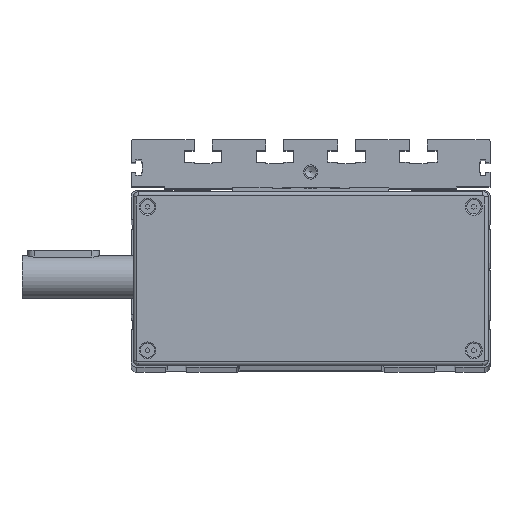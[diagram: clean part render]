
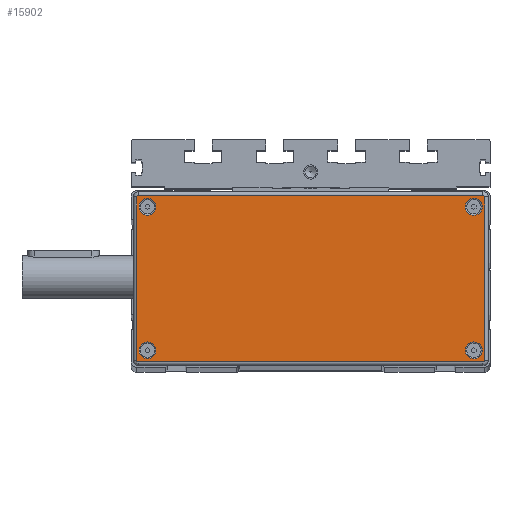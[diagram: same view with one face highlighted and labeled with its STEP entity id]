
A CAD part, top view. The second image highlights one B-rep face of the part: STEP entity #15902.
In plain terms, the highlighted planar face has unit normal (0, 0, 1) as drawn and (-1, 0, 0) by its records, which use the part's own axes.
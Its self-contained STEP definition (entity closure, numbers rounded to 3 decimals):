
#108=PLANE('',#16638);
#651=LINE('',#21023,#1851);
#652=LINE('',#21028,#1852);
#653=LINE('',#21032,#1853);
#654=LINE('',#21036,#1854);
#1851=VECTOR('',#17741,1000.);
#1852=VECTOR('',#17744,1000.);
#1853=VECTOR('',#17747,1000.);
#1854=VECTOR('',#17750,1000.);
#3091=ORIENTED_EDGE('',*,*,#6131,.T.);
#3092=ORIENTED_EDGE('',*,*,#6132,.T.);
#3093=ORIENTED_EDGE('',*,*,#6133,.T.);
#3094=ORIENTED_EDGE('',*,*,#6134,.T.);
#3095=ORIENTED_EDGE('',*,*,#6135,.T.);
#3096=ORIENTED_EDGE('',*,*,#6136,.T.);
#3097=ORIENTED_EDGE('',*,*,#6137,.T.);
#3098=ORIENTED_EDGE('',*,*,#6138,.T.);
#3099=ORIENTED_EDGE('',*,*,#6139,.T.);
#3100=ORIENTED_EDGE('',*,*,#6140,.T.);
#3101=ORIENTED_EDGE('',*,*,#6141,.T.);
#3102=ORIENTED_EDGE('',*,*,#6142,.T.);
#6131=EDGE_CURVE('',#7651,#7652,#651,.F.);
#6132=EDGE_CURVE('',#7652,#7653,#8708,.F.);
#6133=EDGE_CURVE('',#7653,#7654,#652,.F.);
#6134=EDGE_CURVE('',#7654,#7655,#8709,.F.);
#6135=EDGE_CURVE('',#7655,#7656,#653,.F.);
#6136=EDGE_CURVE('',#7656,#7657,#8710,.F.);
#6137=EDGE_CURVE('',#7657,#7658,#654,.F.);
#6138=EDGE_CURVE('',#7658,#7651,#8711,.F.);
#6139=EDGE_CURVE('',#7659,#7659,#8712,.T.);
#6140=EDGE_CURVE('',#7660,#7660,#8713,.T.);
#6141=EDGE_CURVE('',#7661,#7661,#8714,.T.);
#6142=EDGE_CURVE('',#7662,#7662,#8715,.T.);
#7651=VERTEX_POINT('',#21024);
#7652=VERTEX_POINT('',#21025);
#7653=VERTEX_POINT('',#21027);
#7654=VERTEX_POINT('',#21029);
#7655=VERTEX_POINT('',#21031);
#7656=VERTEX_POINT('',#21033);
#7657=VERTEX_POINT('',#21035);
#7658=VERTEX_POINT('',#21037);
#7659=VERTEX_POINT('',#21040);
#7660=VERTEX_POINT('',#21042);
#7661=VERTEX_POINT('',#21044);
#7662=VERTEX_POINT('',#21046);
#8708=CIRCLE('',#16639,1.);
#8709=CIRCLE('',#16640,1.);
#8710=CIRCLE('',#16641,1.);
#8711=CIRCLE('',#16642,1.);
#8712=CIRCLE('',#16643,4.7);
#8713=CIRCLE('',#16644,4.7);
#8714=CIRCLE('',#16645,4.7);
#8715=CIRCLE('',#16646,4.7);
#9040=EDGE_LOOP('',(#3091,#3092,#3093,#3094,#3095,#3096,#3097,#3098));
#9041=EDGE_LOOP('',(#3099));
#9042=EDGE_LOOP('',(#3100));
#9043=EDGE_LOOP('',(#3101));
#9044=EDGE_LOOP('',(#3102));
#9986=FACE_BOUND('',#9040,.T.);
#9987=FACE_BOUND('',#9041,.T.);
#9988=FACE_BOUND('',#9042,.T.);
#9989=FACE_BOUND('',#9043,.T.);
#9990=FACE_BOUND('',#9044,.T.);
#15902=ADVANCED_FACE('',(#9986,#9987,#9988,#9989,#9990),#108,.F.);
#16638=AXIS2_PLACEMENT_3D('',#21022,#17739,#17740);
#16639=AXIS2_PLACEMENT_3D('',#21026,#17742,#17743);
#16640=AXIS2_PLACEMENT_3D('',#21030,#17745,#17746);
#16641=AXIS2_PLACEMENT_3D('',#21034,#17748,#17749);
#16642=AXIS2_PLACEMENT_3D('',#21038,#17751,#17752);
#16643=AXIS2_PLACEMENT_3D('',#21039,#17753,#17754);
#16644=AXIS2_PLACEMENT_3D('',#21041,#17755,#17756);
#16645=AXIS2_PLACEMENT_3D('',#21043,#17757,#17758);
#16646=AXIS2_PLACEMENT_3D('',#21045,#17759,#17760);
#17739=DIRECTION('',(1.,0.,0.));
#17740=DIRECTION('',(0.,0.,-1.));
#17741=DIRECTION('',(0.,0.,-1.));
#17742=DIRECTION('',(1.,0.,0.));
#17743=DIRECTION('',(0.,0.,-1.));
#17744=DIRECTION('',(0.,-1.,0.));
#17745=DIRECTION('',(1.,0.,0.));
#17746=DIRECTION('',(0.,0.,-1.));
#17747=DIRECTION('',(0.,0.,1.));
#17748=DIRECTION('',(1.,0.,0.));
#17749=DIRECTION('',(0.,0.,-1.));
#17750=DIRECTION('',(0.,1.,0.));
#17751=DIRECTION('',(1.,0.,0.));
#17752=DIRECTION('',(0.,0.,-1.));
#17753=DIRECTION('',(1.,0.,0.));
#17754=DIRECTION('',(0.,0.,-1.));
#17755=DIRECTION('',(1.,0.,0.));
#17756=DIRECTION('',(0.,0.,-1.));
#17757=DIRECTION('',(1.,0.,0.));
#17758=DIRECTION('',(0.,0.,-1.));
#17759=DIRECTION('',(1.,0.,0.));
#17760=DIRECTION('',(0.,0.,-1.));
#21022=CARTESIAN_POINT('',(-52.,-45.5,96.));
#21023=CARTESIAN_POINT('',(-52.,-46.5,96.));
#21024=CARTESIAN_POINT('',(-52.,-46.5,-96.));
#21025=CARTESIAN_POINT('',(-52.,-46.5,96.));
#21026=CARTESIAN_POINT('',(-52.,-45.5,96.));
#21027=CARTESIAN_POINT('',(-52.,-45.5,97.));
#21028=CARTESIAN_POINT('',(-52.,-45.5,97.));
#21029=CARTESIAN_POINT('',(-52.,45.5,97.));
#21030=CARTESIAN_POINT('',(-52.,45.5,96.));
#21031=CARTESIAN_POINT('',(-52.,46.5,96.));
#21032=CARTESIAN_POINT('',(-52.,46.5,96.));
#21033=CARTESIAN_POINT('',(-52.,46.5,-96.));
#21034=CARTESIAN_POINT('',(-52.,45.5,-96.));
#21035=CARTESIAN_POINT('',(-52.,45.5,-97.));
#21036=CARTESIAN_POINT('',(-52.,-45.5,-97.));
#21037=CARTESIAN_POINT('',(-52.,-45.5,-97.));
#21038=CARTESIAN_POINT('',(-52.,-45.5,-96.));
#21039=CARTESIAN_POINT('',(-52.,-40.,91.));
#21040=CARTESIAN_POINT('',(-52.,-40.,86.3));
#21041=CARTESIAN_POINT('',(-52.,40.,91.));
#21042=CARTESIAN_POINT('',(-52.,40.,86.3));
#21043=CARTESIAN_POINT('',(-52.,40.,-91.));
#21044=CARTESIAN_POINT('',(-52.,40.,-95.7));
#21045=CARTESIAN_POINT('',(-52.,-40.,-91.));
#21046=CARTESIAN_POINT('',(-52.,-40.,-95.7));
